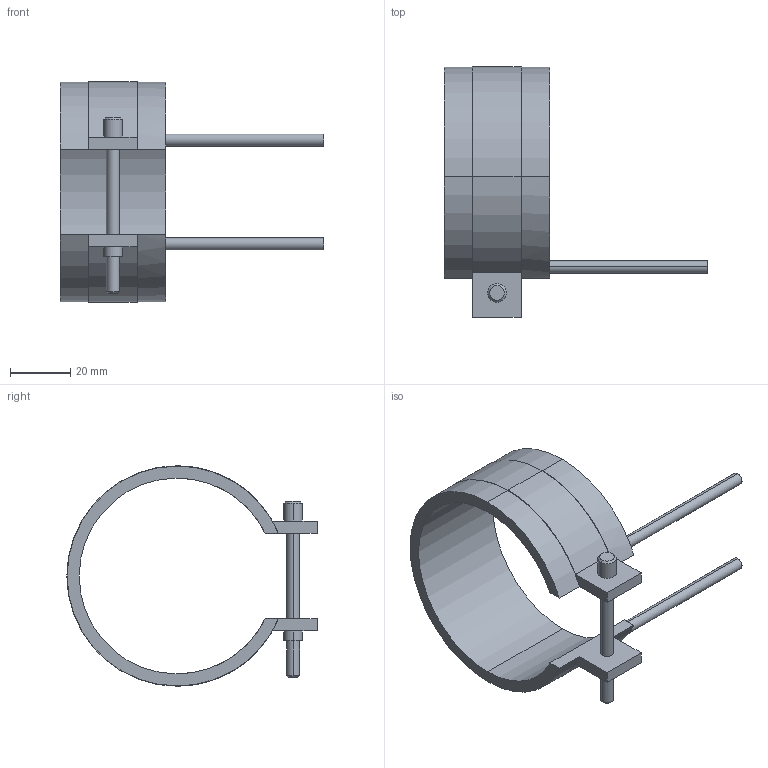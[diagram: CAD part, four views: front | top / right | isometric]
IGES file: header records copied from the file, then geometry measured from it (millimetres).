
Start section: START RECORD GO HERE.
Global section: file name: 14065035.igs; native system: DASSAULT SYSTEMES CATIA V5 R20 - www.3ds.com; preprocessor: CATIA Version 5 Release 20 ; author: Utente; organization: NB04-ASUS; date: 20210403.095622; units: millimetre
Bounding box: 87.5 x 83.1 x 73.2 mm (x, y, z)
Surface area: 18084.2 mm2 (no closed solid volume)
Topology: 0 solids, 0 shells, 45 faces, 232 edges, 232 vertices
Faces by surface type: revolution 28, plane 17
